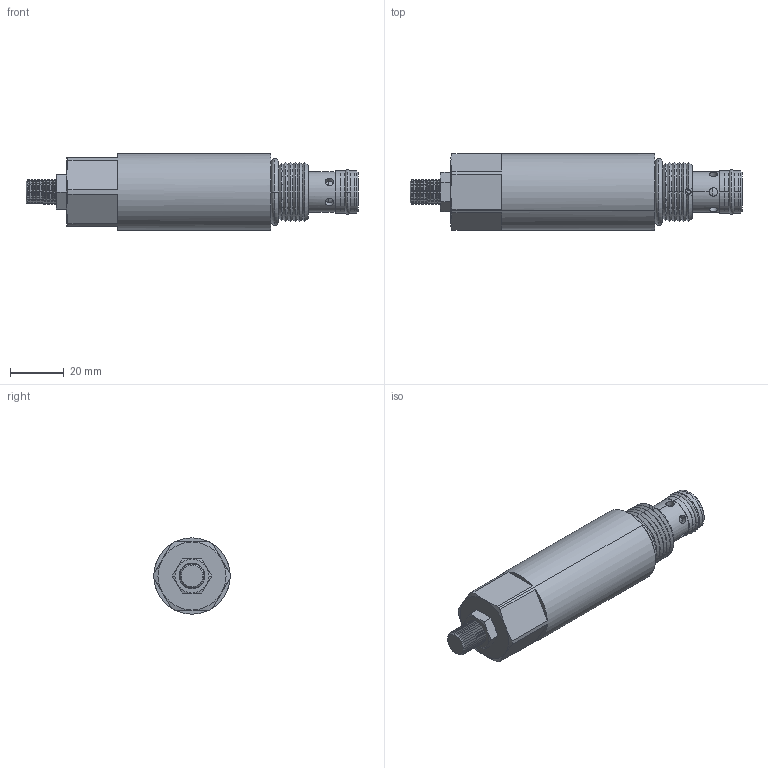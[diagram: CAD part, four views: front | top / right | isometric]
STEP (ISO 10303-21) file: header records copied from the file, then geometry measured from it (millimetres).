
FILE_DESCRIPTION((''),'2;1');
FILE_NAME('U:\Solid model CD\Solid model full\Mechanical\STEP\DERVC00-3D Full.stp','2008-07-28T16:16:39',('Dan'),(''),'Autodesk Inventor 9','Autodesk Inventor 9','');
FILE_SCHEMA(('AUTOMOTIVE_DESIGN { 1 0 10303 214 1 1 1 1 }'));
Length unit declared in the file: inch
Products named in the file (8): DERVC00-3D Full; DERVC00-3D Full1; DERVC00-3D Full2; DERVC00-3D Full3; DERVC00-3D Full4; DERVC00-3D Full5; DERVC00-3D Full6; DERVC00-3D Full7
Assembly tree (7 placements, depth 2):
  DERVC00-3D Full
    DERVC00-3D Full1
    DERVC00-3D Full2
    DERVC00-3D Full3
    DERVC00-3D Full4
    DERVC00-3D Full5
    DERVC00-3D Full6
    DERVC00-3D Full7
Bounding box: 123.95 x 28.45 x 28.45 mm (x, y, z)
Volume: 56163.8 mm3; surface area: 14267.8 mm2
Topology: 7 solids, 7 shells, 279 faces, 619 edges, 351 vertices
Faces by surface type: cone 168, plane 54, cylinder 49, torus 8
Entity records: 8168 total; most frequent: CARTESIAN_POINT 1934, DIRECTION 1350, ORIENTED_EDGE 1238, EDGE_CURVE 619, AXIS2_PLACEMENT_3D 568, VERTEX_POINT 351, EDGE_LOOP 302, FACE_OUTER_BOUND 279
